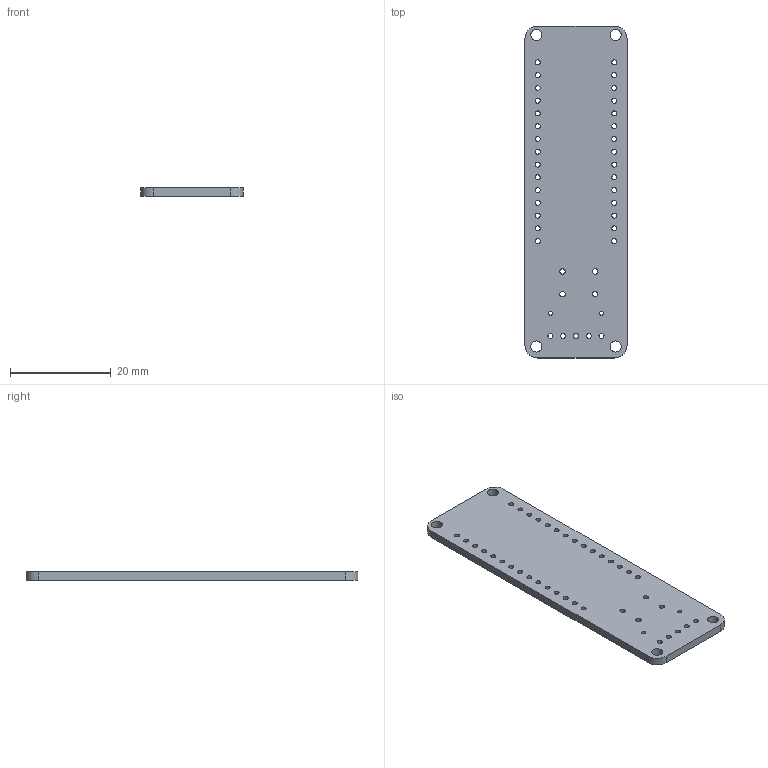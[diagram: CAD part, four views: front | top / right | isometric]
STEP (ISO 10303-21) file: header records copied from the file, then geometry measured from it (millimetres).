
FILE_DESCRIPTION(('KiCad electronic assembly'),'2;1');
FILE_NAME('sd_test_stand_nano.step','2022-03-08T18:37:51',('Pcbnew'),( 'Kicad'),'Open CASCADE STEP processor 7.5','KiCad to STEP converter' ,'Unknown');
FILE_SCHEMA(('AUTOMOTIVE_DESIGN { 1 0 10303 214 1 1 1 1 }'));
Length unit declared in the file: millimetre
Products named in the file (2): sd_test_stand_nano 1; sd_test_stand_nano PCB
Assembly tree (1 placements, depth 2):
  sd_test_stand_nano 1
    sd_test_stand_nano PCB
Bounding box: 20.32 x 66.04 x 1.6 mm (x, y, z)
Volume: 2062.2 mm3; surface area: 3097.5 mm2
Topology: 1 solids, 1 shells, 55 faces, 159 edges, 106 vertices
Faces by surface type: cylinder 49, plane 6
Full cylindrical faces by diameter (mm): 0.8 x2, 1 x35, 1.1 x4, 2.2 x4
Entity records: 4165 total; most frequent: DIRECTION 689, CARTESIAN_POINT 640, ORIENTED_EDGE 318, PCURVE 318, DEFINITIONAL_REPRESENTATION 318, LINE 281, VECTOR 281, CIRCLE 196
